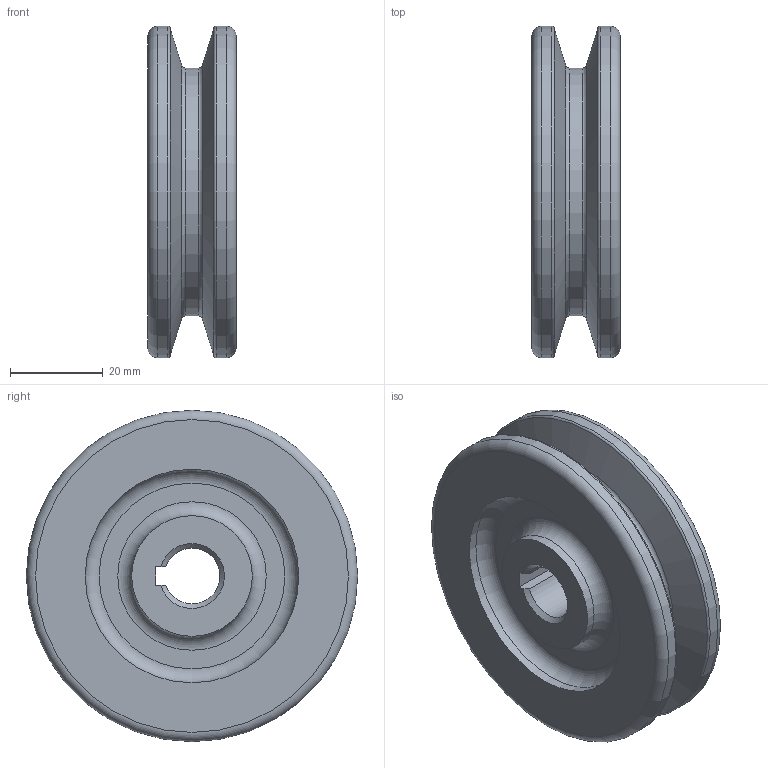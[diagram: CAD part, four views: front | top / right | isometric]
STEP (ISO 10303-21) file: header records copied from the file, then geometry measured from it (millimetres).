
FILE_DESCRIPTION(/* description */ (''),/* implementation_level */ '2;1');
FILE_NAME(/* name */ '',/* time_stamp */ '2026-06-02T17:09:14+09:00',/* author */ ('jhkim'),/* organization */ (''),/* preprocessor_version */ 'ST-DEVELOPER v20.1',/* originating_system */ 'Autodesk Inventor 2027',/* authorisation */ '');
FILE_SCHEMA (('AUTOMOTIVE_DESIGN { 1 0 10303 214 3 1 1 }'));
Length unit declared in the file: millimetre
Products named in the file (1): V 벨트 풀리
Bounding box: 19 x 71.4 x 71.4 mm (x, y, z)
Volume: 50545.5 mm3; surface area: 16182.6 mm2
Topology: 1 solids, 1 shells, 31 faces, 75 edges, 50 vertices
Faces by surface type: torus 10, plane 9, cylinder 8, cone 4
Full cylindrical faces by diameter (mm): 26 x2, 46 x2, 53.4 x1, 71.4 x2
Entity records: 984 total; most frequent: DIRECTION 187, CARTESIAN_POINT 165, ORIENTED_EDGE 150, AXIS2_PLACEMENT_3D 84, EDGE_CURVE 75, CIRCLE 52, VERTEX_POINT 50, EDGE_LOOP 37
